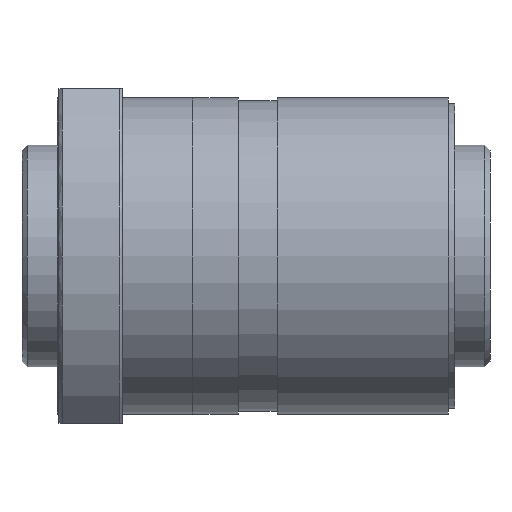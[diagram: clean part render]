
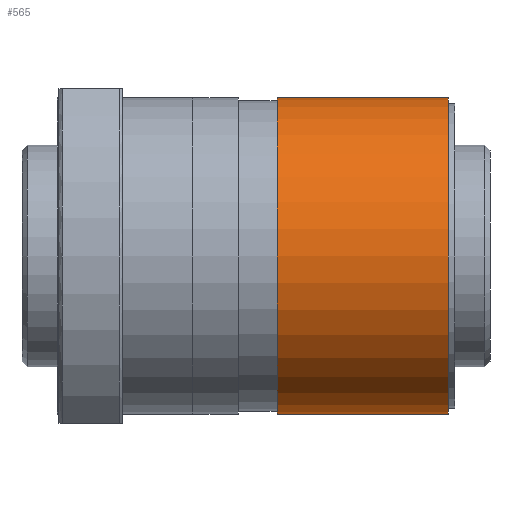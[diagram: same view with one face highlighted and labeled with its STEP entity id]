
A CAD part, front view. The second image highlights one B-rep face of the part: STEP entity #565.
In plain terms, the highlighted cylindrical face has radius 45 mm (diameter 90 mm), a full revolution.
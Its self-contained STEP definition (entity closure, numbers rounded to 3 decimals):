
#61=CYLINDRICAL_SURFACE('',#647,45.);
#118=ORIENTED_EDGE('',*,*,#232,.T.);
#119=ORIENTED_EDGE('',*,*,#231,.F.);
#231=EDGE_CURVE('',#291,#291,#337,.T.);
#232=EDGE_CURVE('',#292,#292,#338,.T.);
#291=VERTEX_POINT('',#978);
#292=VERTEX_POINT('',#981);
#337=CIRCLE('',#646,45.);
#338=CIRCLE('',#648,45.);
#390=EDGE_LOOP('',(#118));
#391=EDGE_LOOP('',(#119));
#476=FACE_BOUND('',#390,.T.);
#477=FACE_BOUND('',#391,.T.);
#565=ADVANCED_FACE('',(#476,#477),#61,.T.);
#646=AXIS2_PLACEMENT_3D('',#977,#767,#768);
#647=AXIS2_PLACEMENT_3D('',#979,#769,#770);
#648=AXIS2_PLACEMENT_3D('',#980,#771,#772);
#767=DIRECTION('',(1.,0.,0.));
#768=DIRECTION('',(0.,0.,-1.));
#769=DIRECTION('',(1.,0.,0.));
#770=DIRECTION('',(0.,0.,-1.));
#771=DIRECTION('',(1.,0.,0.));
#772=DIRECTION('',(0.,0.,-1.));
#977=CARTESIAN_POINT('',(111.2,0.,0.));
#978=CARTESIAN_POINT('',(111.2,0.,-45.));
#979=CARTESIAN_POINT('',(113.,0.,0.));
#980=CARTESIAN_POINT('',(62.5,0.,0.));
#981=CARTESIAN_POINT('',(62.5,0.,-45.));
